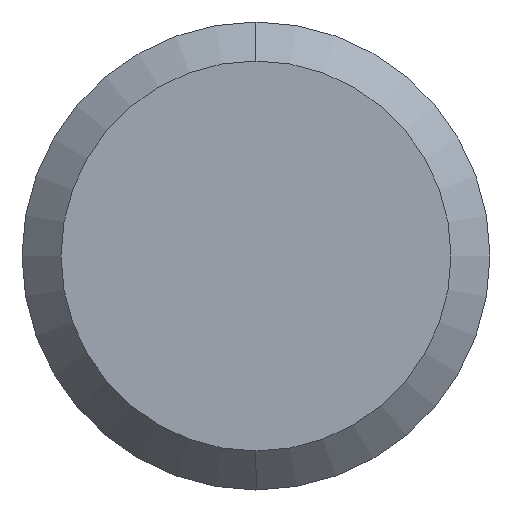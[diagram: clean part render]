
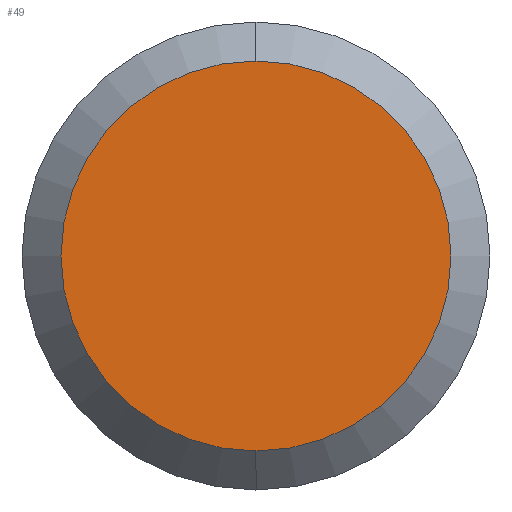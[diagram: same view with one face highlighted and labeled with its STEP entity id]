
A CAD part, left-side view. The second image highlights one B-rep face of the part: STEP entity #49.
In plain terms, the highlighted planar face has unit normal (-1, 0, 0).
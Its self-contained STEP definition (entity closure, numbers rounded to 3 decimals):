
#5 = DIRECTION ( 'NONE',  ( -1., 0., 0. ) ) ;
#19 = ORIENTED_EDGE ( 'NONE', *, *, #151, .T. ) ;
#21 = CARTESIAN_POINT ( 'NONE',  ( 0., 0., 0. ) ) ;
#49 = ADVANCED_FACE ( 'NONE', ( #325 ), #231, .F. ) ;
#86 = CIRCLE ( 'NONE', #102, 5. ) ;
#102 = AXIS2_PLACEMENT_3D ( 'NONE', #208, #5, #155 ) ;
#120 = VERTEX_POINT ( 'NONE', #144 ) ;
#144 = CARTESIAN_POINT ( 'NONE',  ( 0., 0., -5. ) ) ;
#151 = EDGE_CURVE ( 'NONE', #120, #282, #408, .T. ) ;
#155 = DIRECTION ( 'NONE',  ( 0., 0., 1. ) ) ;
#164 = DIRECTION ( 'NONE',  ( -1., 0., 0. ) ) ;
#166 = AXIS2_PLACEMENT_3D ( 'NONE', #21, #164, #322 ) ;
#208 = CARTESIAN_POINT ( 'NONE',  ( 0., 0., 0. ) ) ;
#231 = PLANE ( 'NONE',  #350 ) ;
#246 = EDGE_CURVE ( 'NONE', #282, #120, #86, .T. ) ;
#277 = ORIENTED_EDGE ( 'NONE', *, *, #246, .T. ) ;
#282 = VERTEX_POINT ( 'NONE', #284 ) ;
#284 = CARTESIAN_POINT ( 'NONE',  ( 0., 0., 5. ) ) ;
#322 = DIRECTION ( 'NONE',  ( 0., 0., 1. ) ) ;
#325 = FACE_OUTER_BOUND ( 'NONE', #379, .T. ) ;
#346 = DIRECTION ( 'NONE',  ( 1., 0., 0. ) ) ;
#350 = AXIS2_PLACEMENT_3D ( 'NONE', #362, #346, #429 ) ;
#362 = CARTESIAN_POINT ( 'NONE',  ( 0., 0., 0. ) ) ;
#379 = EDGE_LOOP ( 'NONE', ( #277, #19 ) ) ;
#408 = CIRCLE ( 'NONE', #166, 5. ) ;
#429 = DIRECTION ( 'NONE',  ( 0., 0., -1. ) ) ;
